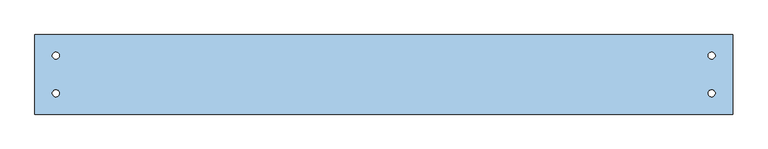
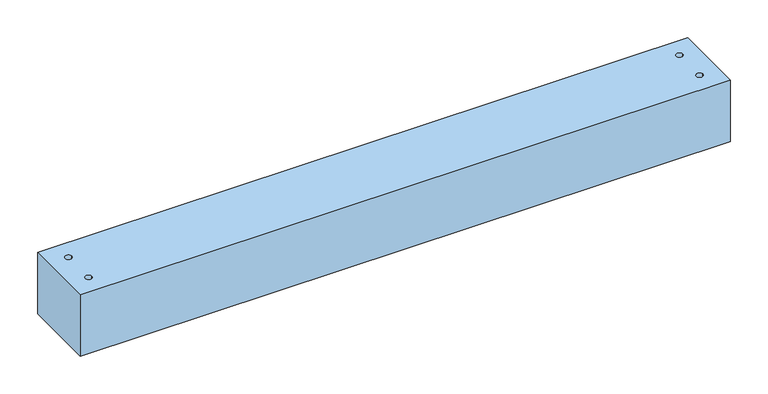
"""IFC4 building model written with IfcOpenShell, lengths in millimetres: window geometry, 30_NS_BLOk : BLOK-114/100."""

from ifc_helpers import new_model, si_unit, point, frame_2d, origin, origin_with_axes, place, context, project, spatial, polyline, circle_curve, trimmed, segment, composite_curve, outline, extrude, source, transform, mapped, element, save


def window_49015d95(model_context):
    return source(origin(), model_context, "Body", "SweptSolid", [
        extrude(outline(polyline([(0.0, -114.0), (0.0, 0.0), (1000.0, 0.0), (1000.0, -114.0), (0.0, -114.0)]), holes=[composite_curve([segment(trimmed(circle_curve(frame_2d((30.0, -84.0)), 5.0), [point((25.0, -84.0))], [point((35.0, -84.0))], True, "CARTESIAN"), True, "CONTINUOUS"), segment(trimmed(circle_curve(frame_2d((30.0, -84.0)), 5.0), [point((35.0, -84.0))], [point((25.0, -84.0))], True, "CARTESIAN"), True, "CONTINUOUS")], self_intersect=False), composite_curve([segment(trimmed(circle_curve(frame_2d((30.0, -30.0)), 5.0), [point((25.0, -30.0))], [point((35.0, -30.0))], True, "CARTESIAN"), True, "CONTINUOUS"), segment(trimmed(circle_curve(frame_2d((30.0, -30.0)), 5.0), [point((35.0, -30.0))], [point((25.0, -30.0))], True, "CARTESIAN"), True, "CONTINUOUS")], self_intersect=False), composite_curve([segment(trimmed(circle_curve(frame_2d((970.0, -84.0)), 5.0), [point((965.0, -84.0))], [point((975.0, -84.0))], True, "CARTESIAN"), True, "CONTINUOUS"), segment(trimmed(circle_curve(frame_2d((970.0, -84.0)), 5.0), [point((975.0, -84.0))], [point((965.0, -84.0))], True, "CARTESIAN"), True, "CONTINUOUS")], self_intersect=False), composite_curve([segment(trimmed(circle_curve(frame_2d((970.0, -30.0)), 5.0), [point((965.0, -30.0))], [point((975.0, -30.0))], True, "CARTESIAN"), True, "CONTINUOUS"), segment(trimmed(circle_curve(frame_2d((970.0, -30.0)), 5.0), [point((975.0, -30.0))], [point((965.0, -30.0))], True, "CARTESIAN"), True, "CONTINUOUS")], self_intersect=False)]), origin_with_axes(), (0.0, 0.0, 1.0), 100.0),
    ])


if __name__ == "__main__":
    model = new_model("IFC4")
    model_context = context("Model", 3, world=origin())
    ifc_project = project(units=[si_unit("LENGTHUNIT", "METRE", prefix="MILLI")], contexts=[model_context])
    site = spatial("IfcSite", under=ifc_project)
    building = spatial("IfcBuilding", under=site)
    placement = place(None, origin())
    window_shape = window_49015d95(model_context)
    element("IfcWindow", 1, ObjectType="30_NS_BLOk : BLOK-114/100", at=placement, inside=building, context=model_context, shape_type="MappedRepresentation", body=[
        mapped(window_shape, transform((0.0, 0.0, 0.0), x_axis=(1.0, 0.0, 0.0), y_axis=(0.0, 1.0, 0.0), z_axis=(0.0, 0.0, 1.0))),
    ])
    save(model, "model.ifc")
